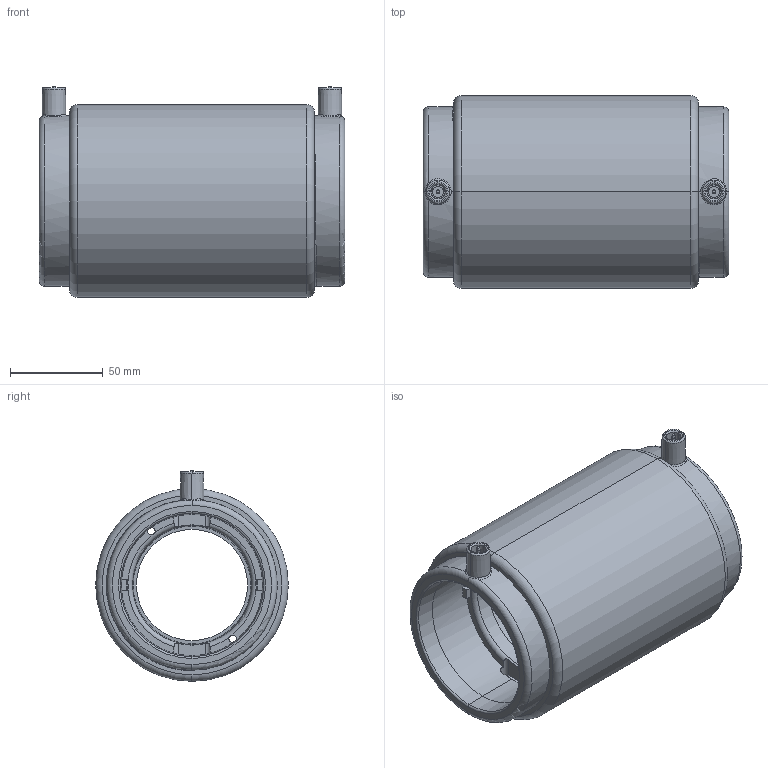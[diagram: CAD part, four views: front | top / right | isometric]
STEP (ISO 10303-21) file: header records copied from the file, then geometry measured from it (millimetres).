
FILE_DESCRIPTION (( 'STEP AP214' ), '1' );
FILE_NAME ('KP_2-75-63SCA.step', '2013-03-22T09:25:22', ( '' ), ( '' ), 'SwSTEP 2.0', 'SolidWorks 2012', '' );
FILE_SCHEMA (( 'AUTOMOTIVE_DESIGN' ));
Length unit declared in the file: millimetre
Products named in the file (1): KP_2-75-63SCA
Bounding box: 165 x 104 x 113.72 mm (x, y, z)
Volume: 602526.4 mm3; surface area: 159417.9 mm2
Topology: 1 solids, 2 shells, 601 faces, 1572 edges, 1005 vertices
Faces by surface type: plane 241, bspline 134, cylinder 130, cone 46, torus 42, sphere 8
Entity records: 27131 total; most frequent: CARTESIAN_POINT 12465, ORIENTED_EDGE 3124, DIRECTION 2146, EDGE_CURVE 1562, VERTEX_POINT 1004, AXIS2_PLACEMENT_3D 832, EDGE_LOOP 652, FACE_OUTER_BOUND 600
